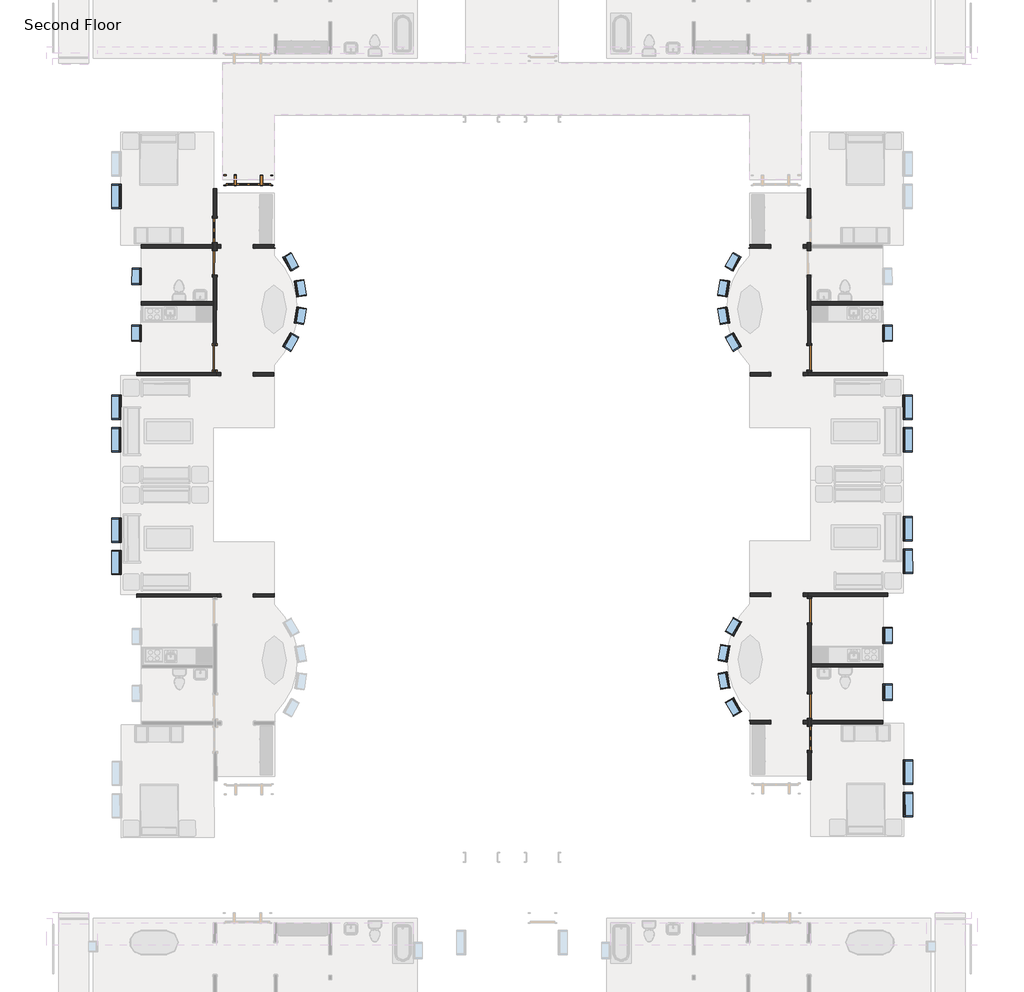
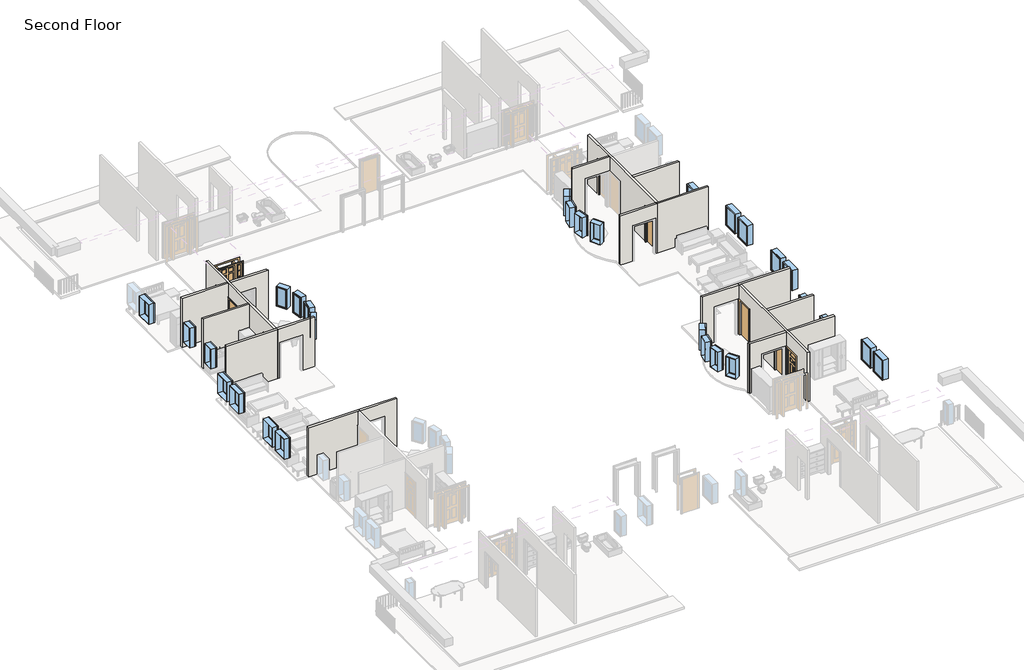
# One storey, part 2 of 6: 28 windows, 19 walls, 8 doors.
"""IFC4 building model written with IfcOpenShell, lengths in millimetres."""

from ifc_helpers import new_model, si_unit, frame, origin, place, context, project, spatial, polyline, circle_curve, outline, extrude, faceted_brep, transform, mapped, element, save
from ifc_brep_helpers import plane_surface, cylinder_surface, advanced_brep
from components import door_829da954, door_a1797ceb, door_a3eb833a, door_16372e1c, door_dba5aa2e, window_60baf983, window_ed80354a, window_15c49d37, window_0e2fc6ce

model = new_model("IFC4")

# Units and contexts
model_context = context("Model", 3, world=origin())
ifc_project = project(units=[si_unit("LENGTHUNIT", "METRE", prefix="MILLI")], contexts=[model_context])

# Site, building, storey
site = spatial("IfcSite", under=ifc_project)
building = spatial("IfcBuilding", under=site)
storey = spatial("IfcBuildingStorey", under=building, Name="Second Floor", Elevation=3048.0)

# Doors
placement = place(None, origin())
door_shape = door_829da954(model_context)
element("IfcDoor", 1, ObjectType="Single-Decorative 2 : 36\" x 84\"", at=placement, inside=storey, context=model_context, shape_type="MappedRepresentation", body=[
    mapped(door_shape, transform((-26098.4432559, -2102.1231556, 3048.0), x_axis=(-0.0007588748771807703, -0.9999997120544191, 0.0), y_axis=(0.9999997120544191, -0.0007588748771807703, 0.0), z_axis=(0.0, 0.0, 1.0))),
])
element("IfcDoor", 2, ObjectType="Single-Decorative 2 : 36\" x 84\"", at=placement, inside=storey, context=model_context, shape_type="MappedRepresentation", body=[
    mapped(door_shape, transform((-3757.4044126, -21203.0849432, 3048.0), x_axis=(-0.0007588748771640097, 0.999999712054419, 0.0), y_axis=(-0.999999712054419, -0.0007588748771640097, 0.0), z_axis=(0.0, 0.0, 1.0))),
])
door_2_shape = door_a1797ceb(model_context)
element("IfcDoor", 3, ObjectType="Single-Flush : 36\" x 84\"", at=placement, inside=storey, context=model_context, shape_type="MappedRepresentation", body=[
    mapped(door_2_shape, transform((-26099.3684761, -3321.3228045, 3048.0), x_axis=(0.0007588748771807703, 0.9999997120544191, 0.0), y_axis=(-0.9999997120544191, 0.0007588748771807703, 0.0), z_axis=(0.0, 0.0, 1.0))),
])
element("IfcDoor", 4, ObjectType="Single-Flush : 36\" x 84\"", at=placement, inside=storey, context=model_context, shape_type="MappedRepresentation", body=[
    mapped(door_2_shape, transform((-3758.3296328, -19983.8852943, 3048.0), x_axis=(0.0007588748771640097, -0.999999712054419, 0.0), y_axis=(0.999999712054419, 0.0007588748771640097, 0.0), z_axis=(0.0, 0.0, 1.0))),
])
door_3_shape = door_a3eb833a(model_context)
element("IfcDoor", 5, ObjectType="Single-Flush : 36\" x 84\"", at=placement, inside=storey, context=model_context, shape_type="MappedRepresentation", body=[
    mapped(door_3_shape, transform((-26102.0839012, -6899.5467742, 3048.0), x_axis=(-0.0007588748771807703, -0.9999997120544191, 0.0), y_axis=(0.9999997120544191, -0.0007588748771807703, 0.0), z_axis=(0.0, 0.0, 1.0))),
])
element("IfcDoor", 6, ObjectType="Single-Flush : 36\" x 84\"", at=placement, inside=storey, context=model_context, shape_type="MappedRepresentation", body=[
    mapped(door_3_shape, transform((-3761.0450579, -16405.6613246, 3048.0), x_axis=(-0.0007588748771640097, 0.999999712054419, 0.0), y_axis=(-0.999999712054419, -0.0007588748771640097, 0.0), z_axis=(0.0, 0.0, 1.0))),
])
door_4_shape = door_16372e1c(model_context)
element("IfcDoor", 7, ObjectType="Single-Flush : 36\" x 84\"", at=placement, inside=storey, context=model_context, shape_type="MappedRepresentation", body=[
    mapped(door_4_shape, transform((-3768.2590115, -6899.5467742, 3048.0), x_axis=(0.0007588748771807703, -0.9999997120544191, 0.0), y_axis=(0.9999997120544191, 0.0007588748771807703, 0.0), z_axis=(0.0, 0.0, 1.0))),
])
door_5_shape = door_dba5aa2e(model_context)
element("IfcDoor", 8, ObjectType="Single-Raised Panel with Sidelights : 36\" x 84\"", at=placement, inside=storey, context=model_context, shape_type="MappedRepresentation", body=[
    mapped(door_5_shape, transform((-24841.3047997, -223.5602693, 3048.0), x_axis=(0.9999997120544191, -0.0007588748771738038, 0.0), y_axis=(0.0007588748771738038, 0.9999997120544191, 0.0), z_axis=(0.0, 0.0, 1.0))),
])

# Walls
element("IfcWall", 9, ObjectType="Interior - 5\" Partition (2-hr)", at=placement, inside=storey, context=model_context, shape_type="Brep", body=[
    faceted_brep([(-832.5579351, -7443.419101, 3048.0), (-3704.3446082, -7445.5984284, 3048.0), (-3831.3445716, -7445.6948055, 3048.0), (-3831.3445716, -7445.6948055, 6096.0), (-3704.3446082, -7445.5984284, 6096.0), (-832.5579351, -7443.419101, 6096.0), (-832.461558, -7570.4190644, 3048.0), (-832.461558, -7570.4190644, 6096.0), (-3831.2481945, -7572.6947689, 6096.0), (-3831.2481945, -7572.6947689, 3048.0)], [[[0, 1, 2, 3, 4, 5]], [[6, 7, 8, 9]], [[2, 1, 0, 6, 9]], [[5, 4, 3, 8, 7]], [[0, 5, 7, 6]], [[3, 2, 9, 8]]]),
])
element("IfcWall", 10, ObjectType="Interior - 5\" Partition (2-hr)", at=placement, inside=storey, context=model_context, shape_type="Brep", body=[
    faceted_brep([(-3836.5862816, -538.4842944, 3048.0), (-3836.5862816, -538.4842944, 6096.0), (-3709.5863182, -538.3879173, 6096.0), (-3709.5863182, -538.3879173, 3048.0), (-3831.3445716, -7445.6948055, 3048.0), (-3831.4120356, -7356.7948311, 3048.0), (-3704.4120721, -7356.698454, 3048.0), (-3704.3446082, -7445.5984284, 3048.0), (-3834.8213758, -2864.1711247, 3048.0), (-3834.8888398, -2775.2711503, 3048.0), (-3834.9852169, -2648.2711869, 3048.0), (-3835.0526809, -2559.3712125, 3048.0), (-3708.0527175, -2559.2748354, 3048.0), (-3707.9852535, -2648.1748098, 3048.0), (-3707.8888764, -2775.1747732, 3048.0), (-3707.8214124, -2864.0747476, 3048.0), (-3707.1274972, -3778.4744843, 3048.0), (-3706.366118, -4781.7741954, 3048.0), (-3706.2697409, -4908.7741589, 3048.0), (-3705.1059873, -6442.2987173, 3048.0), (-3832.1059508, -6442.3950944, 3048.0), (-3834.1274606, -3778.5708614, 3048.0), (-3835.7465961, -1644.9714758, 3048.0), (-3708.7466326, -1644.8750987, 3048.0), (-3834.9852169, -2648.2711869, 6096.0), (-3834.8888398, -2775.2711503, 6096.0), (-3831.3445716, -7445.6948055, 6096.0), (-3704.3446082, -7445.5984284, 6096.0), (-3706.2697409, -4908.7741589, 6096.0), (-3706.366118, -4781.7741954, 6096.0), (-3707.8888764, -2775.1747732, 6096.0), (-3707.9852535, -2648.1748098, 6096.0), (-3835.0526809, -2559.3712125, 5181.6), (-3834.8213758, -2864.1711247, 5181.6), (-3834.1274606, -3778.5708614, 5181.6), (-3832.1059508, -6442.3950944, 5181.6), (-3831.4120356, -7356.7948311, 5181.6), (-3835.7465961, -1644.9714758, 5181.6), (-3708.0527175, -2559.2748354, 5181.6), (-3708.7466326, -1644.8750987, 5181.6), (-3704.4120721, -7356.698454, 5181.6), (-3705.1059873, -6442.2987173, 5181.6), (-3707.1274972, -3778.4744843, 5181.6), (-3707.8214124, -2864.0747476, 5181.6)], [[[0, 1, 2, 3]], [[4, 5, 6, 7]], [[8, 9, 10, 11, 12, 13, 14, 15]], [[16, 17, 18, 19, 20, 21]], [[22, 0, 3, 23]], [[1, 24, 25, 26, 27, 28, 29, 30, 31, 2]], [[32, 11, 10, 9, 8, 33, 34, 21, 20, 35, 36, 5, 4, 26, 25, 24, 1, 0, 22, 37]], [[15, 14, 13, 12, 38, 39, 23, 3, 2, 31, 30, 29, 28, 27, 7, 6, 40, 41, 19, 18, 17, 16, 42, 43]], [[26, 4, 7, 27]], [[40, 6, 5, 36]], [[41, 40, 36, 35]], [[19, 41, 35, 20]], [[33, 8, 15, 43]], [[34, 33, 43, 42]], [[21, 34, 42, 16]], [[38, 12, 11, 32]], [[39, 38, 32, 37]], [[23, 39, 37, 22]]]),
])
element("IfcWall", 11, ObjectType="Interior - 5\" Partition (2-hr)", at=placement, inside=storey, context=model_context, shape_type="SweptSolid", body=[
    extrude(outline(polyline([(-1010.6955171, -4906.7285547), (-3706.2697409, -4908.7741589), (-3706.366118, -4781.7741954), (-1010.7918942, -4779.7285913), (-1010.6955171, -4906.7285547)])), frame((0.0, 0.0, 3048.0), z_axis=(0.0, 0.0, 1.0), x_axis=(1.0, 0.0, 0.0)), (0.0, 0.0, 1.0), 3048.0),
])
element("IfcWall", 12, ObjectType="Interior - 5\" Partition (2-hr)", at=placement, inside=storey, context=model_context, shape_type="AdvancedBrep", body=[
    advanced_brep(
    [(-5993.9845952, -2649.9095978, 3048.0), (-5219.2848183, -2649.3216974, 3048.0), (-5219.1884412, -2776.3216608, 3048.0), (-6035.2682302, -2776.9409635, 3048.0), (-5993.9193325, -2735.9088692, 3048.0), (-4000.0851694, -2648.3964771, 3048.0), (-3834.9852169, -2648.2711869, 3048.0), (-3834.8888398, -2775.2711503, 3048.0), (-3999.9887923, -2775.3964406, 3048.0), (-3834.9852169, -2648.2711869, 6096.0), (-5993.9845952, -2649.9095978, 6096.0), (-5993.9193325, -2735.9088692, 6096.0), (-6035.2682302, -2776.9409635, 6096.0), (-3834.8888398, -2775.2711503, 6096.0), (-5219.2848183, -2649.3216974, 5181.6), (-4000.0851694, -2648.3964771, 5181.6), (-5219.1884412, -2776.3216608, 5181.6), (-3999.9887923, -2775.3964406, 5181.6)],
    [
        (0, 1),
        (1, 2),
        (2, 3),
        (3, 4, circle_curve(frame((-3991.8614496, -4794.7744983, 3048.0), z_axis=(0.0, 0.0, -1.0), x_axis=(-0.716928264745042, -0.697146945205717, 0.0)), 2871.7875)),
        (4, 0),
        (5, 6),
        (6, 7),
        (7, 8),
        (8, 5),
        (9, 10),
        (10, 11),
        (11, 12, circle_curve(frame((-3991.8614496, -4794.7744983, 6096.0), z_axis=(0.0, 0.0, 1.0), x_axis=(-0.716928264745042, -0.697146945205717, 0.0)), 2871.7875)),
        (12, 13),
        (13, 9),
        (14, 1),
        (0, 10),
        (9, 6),
        (5, 15),
        (15, 14),
        (2, 16),
        (16, 17),
        (17, 8),
        (7, 13),
        (12, 3),
        (4, 11),
        (17, 15),
        (14, 16),
    ],
    [
        plane_surface(frame((-3771.4852352, -2648.2229983, 3048.0), z_axis=(0.0, 0.0, -1.0000000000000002), x_axis=(0.0007588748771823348, -0.9999997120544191, 0.0))),
        plane_surface(frame((-6218.7760824, -2650.0801864, 6096.0), z_axis=(0.0, 0.0, 1.0000000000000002), x_axis=(0.000758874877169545, -0.9999997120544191, 0.0))),
        plane_surface(frame((-3771.4852352, -2648.2229983, 3048.0), z_axis=(-0.0007588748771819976, 0.9999997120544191, 0.0), x_axis=(-0.9999997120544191, -0.0007588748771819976, 0.0))),
        plane_surface(frame((-3771.3888581, -2775.2229618, 3048.0), z_axis=(0.0007588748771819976, -0.9999997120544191, 0.0), x_axis=(0.9999997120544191, 0.0007588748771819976, 0.0))),
        plane_surface(frame((-3836.4525584, -714.6967437, 3048.0), z_axis=(0.9999997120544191, 0.0007588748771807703, 0.0), x_axis=(0.0007588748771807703, -0.9999997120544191, 0.0))),
        plane_surface(frame((-5994.8723335, -1480.1014046, 2895.6), z_axis=(-0.999999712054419, -0.0007588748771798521, 0.0), x_axis=(0.0007588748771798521, -0.999999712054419, 0.0))),
        cylinder_surface(frame((-3991.8614496, -4794.7744983, 2895.6), z_axis=(0.0, 0.0, 1.0), x_axis=(-0.716928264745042, -0.697146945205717, 0.0)), 2871.7875),
        plane_surface(frame((-3999.9887923, -2775.3964406, 5181.6), z_axis=(-0.9999997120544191, -0.0007588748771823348, 0.0), x_axis=(-0.0007588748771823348, 0.9999997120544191, 0.0))),
        plane_surface(frame((-5219.1884412, -2776.3216608, 3048.0), z_axis=(0.9999997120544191, 0.0007588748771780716, 0.0), x_axis=(-0.0007588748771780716, 0.9999997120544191, 0.0))),
        plane_surface(frame((-5219.1884412, -2776.3216608, 5181.6), z_axis=(0.0, 0.0, -1.0000000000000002), x_axis=(-0.0007588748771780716, 0.9999997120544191, 0.0))),
    ],
    [
        (0, [[1, 2, 3, 4, 5]]),
        (0, [[6, 7, 8, 9]]),
        (1, [[10, 11, 12, 13, 14]]),
        (2, [[15, -1, 16, -10, 17, -6, 18, 19]]),
        (3, [[-3, 20, 21, 22, -8, 23, -13, 24]]),
        (4, [[-17, -14, -23, -7]]),
        (5, [[-16, -5, 25, -11]]),
        (6, [[-4, -24, -12, -25]]),
        (7, [[-22, 26, -18, -9]]),
        (8, [[-20, -2, -15, 27]]),
        (9, [[-21, -27, -19, -26]]),
    ],
),
])
element("IfcWall", 13, ObjectType="Interior - 5\" Partition (2-hr)", at=placement, inside=storey, context=model_context, shape_type="SweptSolid", body=[
    extrude(outline(polyline([(-228.6, -2133.6), (-228.6, 0.0), (-63.5, 0.0), (-63.5, -3048.0), (-2222.5, -3048.0), (-2222.5, 0.0), (-1447.8, 0.0), (-1447.8, -2133.6), (-228.6, -2133.6)])), frame((-3767.7482128, -7572.6465804, 3048.0), z_axis=(-0.0007588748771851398, 0.9999997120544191, 0.0), x_axis=(0.9999997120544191, 0.0007588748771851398, 0.0)), (0.0, 0.0, 1.0), 127.0),
])
element("IfcWall", 14, ObjectType="Interior - 5\" Partition (2-hr)", at=placement, inside=storey, context=model_context, shape_type="Brep", body=[
    faceted_brep([(-29037.8813546, -7570.4190644, 3048.0), (-26039.0947181, -7572.6947689, 3048.0), (-26039.0947181, -7572.6947689, 6096.0), (-29037.8813546, -7570.4190644, 6096.0), (-29037.7849775, -7443.419101, 3048.0), (-29037.7849775, -7443.419101, 6096.0), (-26165.9983045, -7445.5984284, 6096.0), (-26038.998341, -7445.6948055, 6096.0), (-26038.998341, -7445.6948055, 3048.0), (-26165.9983045, -7445.5984284, 3048.0)], [[[0, 1, 2, 3]], [[4, 5, 6, 7, 8, 9]], [[1, 0, 4, 9, 8]], [[3, 2, 7, 6, 5]], [[0, 3, 5, 4]], [[2, 1, 8, 7]]]),
])
element("IfcWall", 15, ObjectType="Interior - 5\" Partition (2-hr)", at=placement, inside=storey, context=model_context, shape_type="Brep", body=[
    faceted_brep([(-26160.7565944, -538.3879173, 3048.0), (-26160.7565944, -538.3879173, 6096.0), (-26033.756631, -538.4842944, 6096.0), (-26033.756631, -538.4842944, 3048.0), (-26165.9983045, -7445.5984284, 3048.0), (-26165.9308405, -7356.698454, 3048.0), (-26038.930877, -7356.7948311, 3048.0), (-26038.998341, -7445.6948055, 3048.0), (-26162.5215002, -2864.0747476, 3048.0), (-26162.4540363, -2775.1747732, 3048.0), (-26162.3576591, -2648.1748098, 3048.0), (-26162.2901952, -2559.2748354, 3048.0), (-26035.2902317, -2559.3712125, 3048.0), (-26035.3576957, -2648.2711869, 3048.0), (-26035.4540728, -2775.2711503, 3048.0), (-26035.5215368, -2864.1711247, 3048.0), (-26036.215452, -3778.5708614, 3048.0), (-26038.2369619, -6442.3950944, 3048.0), (-26165.2369253, -6442.2987173, 3048.0), (-26164.0731717, -4908.7741589, 3048.0), (-26163.9767946, -4781.7741954, 3048.0), (-26163.2154154, -3778.4744843, 3048.0), (-26161.59628, -1644.8750987, 3048.0), (-26034.5963165, -1644.9714758, 3048.0), (-26162.3576591, -2648.1748098, 6096.0), (-26162.4540363, -2775.1747732, 6096.0), (-26163.9767946, -4781.7741954, 6096.0), (-26164.0731717, -4908.7741589, 6096.0), (-26165.9983045, -7445.5984284, 6096.0), (-26038.998341, -7445.6948055, 6096.0), (-26035.4540728, -2775.2711503, 6096.0), (-26035.3576957, -2648.2711869, 6096.0), (-26162.2901952, -2559.2748354, 5181.6), (-26162.5215002, -2864.0747476, 5181.6), (-26163.2154154, -3778.4744843, 5181.6), (-26165.2369253, -6442.2987173, 5181.6), (-26165.9308405, -7356.698454, 5181.6), (-26161.59628, -1644.8750987, 5181.6), (-26035.2902317, -2559.3712125, 5181.6), (-26034.5963165, -1644.9714758, 5181.6), (-26038.930877, -7356.7948311, 5181.6), (-26038.2369619, -6442.3950944, 5181.6), (-26036.215452, -3778.5708614, 5181.6), (-26035.5215368, -2864.1711247, 5181.6)], [[[0, 1, 2, 3]], [[4, 5, 6, 7]], [[8, 9, 10, 11, 12, 13, 14, 15]], [[16, 17, 18, 19, 20, 21]], [[22, 0, 3, 23]], [[1, 24, 25, 26, 27, 28, 29, 30, 31, 2]], [[32, 11, 10, 9, 8, 33, 34, 21, 20, 19, 18, 35, 36, 5, 4, 28, 27, 26, 25, 24, 1, 0, 22, 37]], [[15, 14, 13, 12, 38, 39, 23, 3, 2, 31, 30, 29, 7, 6, 40, 41, 17, 16, 42, 43]], [[28, 4, 7, 29]], [[40, 6, 5, 36]], [[41, 40, 36, 35]], [[17, 41, 35, 18]], [[33, 8, 15, 43]], [[34, 33, 43, 42]], [[21, 34, 42, 16]], [[38, 12, 11, 32]], [[39, 38, 32, 37]], [[23, 39, 37, 22]]]),
])
element("IfcWall", 16, ObjectType="Interior - 5\" Partition (2-hr)", at=placement, inside=storey, context=model_context, shape_type="SweptSolid", body=[
    extrude(outline(polyline([(-26162.4540363, -2775.1747732), (-28858.0282601, -2773.1291691), (-28857.931883, -2646.1292056), (-26162.3576591, -2648.1748098), (-26162.4540363, -2775.1747732)])), frame((0.0, 0.0, 3048.0), z_axis=(0.0, 0.0, 1.0), x_axis=(1.0, 0.0, 0.0)), (0.0, 0.0, 1.0), 3048.0),
])
element("IfcWall", 17, ObjectType="Interior - 5\" Partition (2-hr)", at=placement, inside=storey, context=model_context, shape_type="SweptSolid", body=[
    extrude(outline(polyline([(-28859.5510184, -4779.7285913), (-26163.9767946, -4781.7741954), (-26164.0731717, -4908.7741589), (-28859.6473955, -4906.7285547), (-28859.5510184, -4779.7285913)])), frame((0.0, 0.0, 3048.0), z_axis=(0.0, 0.0, 1.0), x_axis=(1.0, 0.0, 0.0)), (0.0, 0.0, 1.0), 3048.0),
])
element("IfcWall", 18, ObjectType="Interior - 5\" Partition (2-hr)", at=placement, inside=storey, context=model_context, shape_type="AdvancedBrep", body=[
    advanced_brep(
    [(-23835.0746824, -2776.9409635, 3048.0), (-24651.1544714, -2776.3216608, 3048.0), (-24651.0580943, -2649.3216974, 3048.0), (-23876.3583174, -2649.9095978, 3048.0), (-23876.4235801, -2735.9088692, 3048.0), (-25870.3541204, -2775.3964406, 3048.0), (-26035.4540728, -2775.2711503, 3048.0), (-26035.3576957, -2648.2711869, 3048.0), (-25870.2577433, -2648.3964771, 3048.0), (-26035.4540728, -2775.2711503, 6096.0), (-23835.0746824, -2776.9409635, 6096.0), (-23876.4235801, -2735.9088692, 6096.0), (-23876.3583174, -2649.9095978, 6096.0), (-26035.3576957, -2648.2711869, 6096.0), (-24651.1544714, -2776.3216608, 5181.6), (-25870.3541204, -2775.3964406, 5181.6), (-24651.0580943, -2649.3216974, 5181.6), (-25870.2577433, -2648.3964771, 5181.6)],
    [
        (0, 1),
        (1, 2),
        (2, 3),
        (3, 4),
        (4, 0, circle_curve(frame((-25878.481463, -4794.7744983, 3048.0), z_axis=(0.0, 0.0, -1.0), x_axis=(0.7005417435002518, 0.7136114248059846, 0.0)), 2871.7875)),
        (5, 6),
        (6, 7),
        (7, 8),
        (8, 5),
        (9, 10),
        (10, 11, circle_curve(frame((-25878.481463, -4794.7744983, 6096.0), z_axis=(0.0, 0.0, 1.0), x_axis=(0.7005417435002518, 0.7136114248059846, 0.0)), 2871.7875)),
        (11, 12),
        (12, 13),
        (13, 9),
        (14, 1),
        (0, 10),
        (9, 6),
        (5, 15),
        (15, 14),
        (2, 16),
        (16, 17),
        (17, 8),
        (7, 13),
        (12, 3),
        (4, 11),
        (17, 15),
        (14, 16),
    ],
    [
        plane_surface(frame((-26098.9540545, -2775.2229618, 3048.0), z_axis=(0.0, 0.0, -1.0000000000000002), x_axis=(0.000758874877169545, 0.9999997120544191, 0.0))),
        plane_surface(frame((-23651.6632074, -2777.0801499, 6096.0), z_axis=(0.0, 0.0, 1.0000000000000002), x_axis=(0.000758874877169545, 0.9999997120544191, 0.0))),
        plane_surface(frame((-26098.9540545, -2775.2229618, 3048.0), z_axis=(-0.0007588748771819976, -0.9999997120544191, 0.0), x_axis=(0.9999997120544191, -0.0007588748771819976, 0.0))),
        plane_surface(frame((-26098.8576774, -2648.2229983, 3048.0), z_axis=(0.0007588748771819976, 0.9999997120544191, 0.0), x_axis=(-0.9999997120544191, 0.0007588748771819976, 0.0))),
        plane_surface(frame((-26033.8903542, -714.6967437, 3048.0), z_axis=(-0.9999997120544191, 0.0007588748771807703, 0.0), x_axis=(0.0007588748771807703, 0.9999997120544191, 0.0))),
        cylinder_surface(frame((-25878.481463, -4794.7744983, 2895.6), z_axis=(0.0, 0.0, 1.0), x_axis=(0.7005417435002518, 0.7136114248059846, 0.0)), 2871.7875),
        plane_surface(frame((-23875.4705791, -1480.1014046, 2895.6), z_axis=(0.999999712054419, -0.0007588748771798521, 0.0), x_axis=(0.0007588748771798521, 0.999999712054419, 0.0))),
        plane_surface(frame((-25870.2577433, -2648.3964771, 5181.6), z_axis=(0.9999997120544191, -0.000758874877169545, 0.0), x_axis=(-0.000758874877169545, -0.9999997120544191, 0.0))),
        plane_surface(frame((-24651.0580943, -2649.3216974, 3048.0), z_axis=(-0.9999997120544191, 0.000758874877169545, 0.0), x_axis=(-0.000758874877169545, -0.9999997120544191, 0.0))),
        plane_surface(frame((-24651.0580943, -2649.3216974, 5181.6), z_axis=(0.0, 0.0, -1.0000000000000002), x_axis=(-0.000758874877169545, -0.9999997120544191, 0.0))),
    ],
    [
        (0, [[1, 2, 3, 4, 5]]),
        (0, [[6, 7, 8, 9]]),
        (1, [[10, 11, 12, 13, 14]]),
        (2, [[15, -1, 16, -10, 17, -6, 18, 19]]),
        (3, [[-3, 20, 21, 22, -8, 23, -13, 24]]),
        (4, [[-17, -14, -23, -7]]),
        (5, [[-16, -5, 25, -11]]),
        (6, [[-4, -24, -12, -25]]),
        (7, [[-22, 26, -18, -9]]),
        (8, [[-20, -2, -15, 27]]),
        (9, [[-21, -27, -19, -26]]),
    ],
),
])
element("IfcWall", 19, ObjectType="Interior - 5\" Partition (2-hr)", at=placement, inside=storey, context=model_context, shape_type="SweptSolid", body=[
    extrude(outline(polyline([(63.5, 0.0), (228.5999999, 0.0), (228.5999999, -2133.6), (1447.8, -2133.6), (1447.8, 0.0), (2222.5, 0.0), (2222.5, -3048.0), (63.5, -3048.0), (63.5, 0.0)])), frame((-26102.5946998, -7572.6465804, 3048.0), z_axis=(0.0007588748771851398, 0.9999997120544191, 0.0), x_axis=(0.9999997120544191, -0.0007588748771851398, 0.0)), (0.0, 0.0, 1.0), 127.0),
])
element("IfcWall", 20, ObjectType="Interior - 5\" Partition (2-hr)", at=placement, inside=storey, context=model_context, shape_type="Brep", body=[
    faceted_brep([(-826.2692018, -15730.3340025, 3048.0), (-3825.0558383, -15732.609707, 3048.0), (-3825.0558383, -15732.609707, 6096.0), (-826.2692018, -15730.3340025, 6096.0), (-826.1728246, -15857.3339659, 3048.0), (-826.1728246, -15857.3339659, 6096.0), (-3697.9594977, -15859.5132933, 6096.0), (-3824.9594612, -15859.6096704, 6096.0), (-3824.9594612, -15859.6096704, 3048.0), (-3697.9594977, -15859.5132933, 3048.0)], [[[0, 1, 2, 3]], [[4, 5, 6, 7, 8, 9]], [[1, 0, 4, 9, 8]], [[3, 2, 7, 6, 5]], [[0, 3, 5, 4]], [[2, 1, 8, 7]]]),
])
element("IfcWall", 21, ObjectType="Interior - 5\" Partition (2-hr)", at=placement, inside=storey, context=model_context, shape_type="Brep", body=[
    faceted_brep([(-3692.7177877, -22766.7238044, 3048.0), (-3692.7177877, -22766.7238044, 6096.0), (-3819.7177511, -22766.8201815, 6096.0), (-3819.7177511, -22766.8201815, 3048.0), (-3697.9594977, -15859.5132933, 3048.0), (-3697.8920337, -15948.4132677, 3048.0), (-3824.8919972, -15948.5096448, 3048.0), (-3824.9594612, -15859.6096704, 3048.0), (-3694.4826935, -20441.0369741, 3048.0), (-3694.4152295, -20529.9369485, 3048.0), (-3694.3188524, -20656.9369119, 3048.0), (-3694.2513884, -20745.8368863, 3048.0), (-3821.2513519, -20745.9332634, 3048.0), (-3821.3188158, -20657.033289, 3048.0), (-3821.415193, -20530.0333256, 3048.0), (-3821.4826569, -20441.1333512, 3048.0), (-3822.1765721, -19526.7336145, 3048.0), (-3824.198082, -16862.9093815, 3048.0), (-3697.1981186, -16862.8130044, 3048.0), (-3696.034365, -18396.3375629, 3048.0), (-3695.9379879, -18523.3375263, 3048.0), (-3695.1766087, -19526.6372374, 3048.0), (-3693.5574733, -21660.236623, 3048.0), (-3820.5574367, -21660.3330001, 3048.0), (-3694.3188524, -20656.9369119, 6096.0), (-3694.4152295, -20529.9369485, 6096.0), (-3695.9379879, -18523.3375263, 6096.0), (-3696.034365, -18396.3375629, 6096.0), (-3697.9594977, -15859.5132933, 6096.0), (-3824.9594612, -15859.6096704, 6096.0), (-3821.415193, -20530.0333256, 6096.0), (-3821.3188158, -20657.033289, 6096.0), (-3694.2513884, -20745.8368863, 5181.6), (-3694.4826935, -20441.0369741, 5181.6), (-3695.1766087, -19526.6372374, 5181.6), (-3697.1981186, -16862.8130044, 5181.6), (-3697.8920337, -15948.4132677, 5181.6), (-3693.5574733, -21660.236623, 5181.6), (-3821.2513519, -20745.9332634, 5181.6), (-3820.5574367, -21660.3330001, 5181.6), (-3824.8919972, -15948.5096448, 5181.6), (-3824.198082, -16862.9093815, 5181.6), (-3822.1765721, -19526.7336145, 5181.6), (-3821.4826569, -20441.1333512, 5181.6)], [[[0, 1, 2, 3]], [[4, 5, 6, 7]], [[8, 9, 10, 11, 12, 13, 14, 15]], [[16, 17, 18, 19, 20, 21]], [[22, 0, 3, 23]], [[1, 24, 25, 26, 27, 28, 29, 30, 31, 2]], [[32, 11, 10, 9, 8, 33, 34, 21, 20, 19, 18, 35, 36, 5, 4, 28, 27, 26, 25, 24, 1, 0, 22, 37]], [[15, 14, 13, 12, 38, 39, 23, 3, 2, 31, 30, 29, 7, 6, 40, 41, 17, 16, 42, 43]], [[28, 4, 7, 29]], [[40, 6, 5, 36]], [[41, 40, 36, 35]], [[17, 41, 35, 18]], [[33, 8, 15, 43]], [[34, 33, 43, 42]], [[21, 34, 42, 16]], [[38, 12, 11, 32]], [[39, 38, 32, 37]], [[23, 39, 37, 22]]]),
])
element("IfcWall", 22, ObjectType="Interior - 5\" Partition (2-hr)", at=placement, inside=storey, context=model_context, shape_type="SweptSolid", body=[
    extrude(outline(polyline([(-3694.4152295, -20529.9369485), (-998.8410057, -20527.8913444), (-998.7446286, -20654.8913078), (-3694.3188524, -20656.9369119), (-3694.4152295, -20529.9369485)])), frame((0.0, 0.0, 3048.0), z_axis=(0.0, 0.0, 1.0), x_axis=(1.0, 0.0, 0.0)), (0.0, 0.0, 1.0), 3048.0),
])
element("IfcWall", 23, ObjectType="Interior - 5\" Partition (2-hr)", at=placement, inside=storey, context=model_context, shape_type="SweptSolid", body=[
    extrude(outline(polyline([(-1000.363764, -18521.2919221), (-3695.9379879, -18523.3375263), (-3696.034365, -18396.3375629), (-1000.4601411, -18394.2919587), (-1000.363764, -18521.2919221)])), frame((0.0, 0.0, 3048.0), z_axis=(0.0, 0.0, 1.0), x_axis=(1.0, 0.0, 0.0)), (0.0, 0.0, 1.0), 3048.0),
])
element("IfcWall", 24, ObjectType="Interior - 5\" Partition (2-hr)", at=placement, inside=storey, context=model_context, shape_type="AdvancedBrep", body=[
    advanced_brep(
    [(-6021.7945834, -20531.7031387, 3048.0), (-5205.7147944, -20531.0838361, 3048.0), (-5205.6184172, -20658.0837995, 3048.0), (-5980.3181942, -20658.6716999, 3048.0), (-5980.3834569, -20572.6724285, 3048.0), (-3986.5151454, -20530.1586159, 3048.0), (-3821.415193, -20530.0333256, 3048.0), (-3821.3188158, -20657.033289, 3048.0), (-3986.4187683, -20657.1585793, 3048.0), (-3821.415193, -20530.0333256, 6096.0), (-6021.7945834, -20531.7031387, 6096.0), (-5980.3834569, -20572.6724285, 6096.0), (-5980.3181942, -20658.6716999, 6096.0), (-3821.3188158, -20657.033289, 6096.0), (-5205.7147944, -20531.0838361, 5181.6), (-3986.5151454, -20530.1586159, 5181.6), (-5205.6184172, -20658.0837995, 5181.6), (-3986.4187683, -20657.1585793, 5181.6)],
    [
        (0, 1),
        (1, 2),
        (2, 3),
        (3, 4),
        (4, 0, circle_curve(frame((-3981.4527218, -18510.7705488, 3048.0), z_axis=(0.0, 0.0, -1.0), x_axis=(-0.6994578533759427, -0.714673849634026, 0.0)), 2871.7875)),
        (5, 6),
        (6, 7),
        (7, 8),
        (8, 5),
        (9, 10),
        (10, 11, circle_curve(frame((-3981.4527218, -18510.7705488, 6096.0), z_axis=(0.0, 0.0, 1.0), x_axis=(-0.6994578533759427, -0.714673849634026, 0.0)), 2871.7875)),
        (11, 12),
        (12, 13),
        (13, 9),
        (14, 1),
        (0, 10),
        (9, 6),
        (5, 15),
        (15, 14),
        (2, 16),
        (16, 17),
        (17, 8),
        (7, 13),
        (12, 3),
        (4, 11),
        (17, 15),
        (14, 16),
    ],
    [
        plane_surface(frame((-3757.9152112, -20529.9851371, 3048.0), z_axis=(0.0, 0.0, -1.0000000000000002), x_axis=(0.0007588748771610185, -0.9999997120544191, 0.0))),
        plane_surface(frame((-6205.2060584, -20531.8423251, 6096.0), z_axis=(0.0, 0.0, 1.0000000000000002), x_axis=(0.000758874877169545, -0.9999997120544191, 0.0))),
        plane_surface(frame((-3757.9152112, -20529.9851371, 3048.0), z_axis=(-0.0007588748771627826, 0.9999997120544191, 0.0), x_axis=(-0.9999997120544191, -0.0007588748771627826, 0.0))),
        plane_surface(frame((-3757.8188341, -20656.9851005, 3048.0), z_axis=(0.0007588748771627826, -0.9999997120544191, 0.0), x_axis=(0.9999997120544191, 0.0007588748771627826, 0.0))),
        plane_surface(frame((-3819.8514744, -22590.6077323, 3048.0), z_axis=(0.999999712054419, 0.0007588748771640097, 0.0), x_axis=(0.0007588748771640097, -0.999999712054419, 0.0))),
        cylinder_surface(frame((-3981.4527218, -18510.7705488, 2895.6), z_axis=(0.0, 0.0, 1.0), x_axis=(-0.6994578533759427, -0.714673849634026, 0.0)), 2871.7875),
        plane_surface(frame((-5979.4304559, -21828.4798931, 2895.6), z_axis=(-0.999999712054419, -0.0007588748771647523, 0.0), x_axis=(0.0007588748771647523, -0.999999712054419, 0.0))),
        plane_surface(frame((-3986.4187683, -20657.1585793, 5181.6), z_axis=(-0.9999997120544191, -0.0007588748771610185, 0.0), x_axis=(-0.0007588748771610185, 0.9999997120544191, 0.0))),
        plane_surface(frame((-5205.6184172, -20658.0837995, 3048.0), z_axis=(0.9999997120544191, 0.0007588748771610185, 0.0), x_axis=(-0.0007588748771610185, 0.9999997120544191, 0.0))),
        plane_surface(frame((-5205.6184172, -20658.0837995, 5181.6), z_axis=(0.0, 0.0, -1.0000000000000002), x_axis=(-0.0007588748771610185, 0.9999997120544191, 0.0))),
    ],
    [
        (0, [[1, 2, 3, 4, 5]]),
        (0, [[6, 7, 8, 9]]),
        (1, [[10, 11, 12, 13, 14]]),
        (2, [[15, -1, 16, -10, 17, -6, 18, 19]]),
        (3, [[-3, 20, 21, 22, -8, 23, -13, 24]]),
        (4, [[-17, -14, -23, -7]]),
        (5, [[-16, -5, 25, -11]]),
        (6, [[-4, -24, -12, -25]]),
        (7, [[-22, 26, -18, -9]]),
        (8, [[-20, -2, -15, 27]]),
        (9, [[-21, -27, -19, -26]]),
    ],
),
])
element("IfcWall", 25, ObjectType="Interior - 5\" Partition (2-hr)", at=placement, inside=storey, context=model_context, shape_type="SweptSolid", body=[
    extrude(outline(polyline([(-228.6, -2133.6), (-228.6, 0.0), (-63.5000001, 0.0), (-63.5000001, -3048.0), (-2222.5000001, -3048.0), (-2222.5000001, 0.0), (-1447.8000001, 0.0), (-1447.8000001, -2133.6), (-228.6, -2133.6)])), frame((-3761.4594794, -15859.5614819, 3048.0), z_axis=(-0.0007588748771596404, 0.9999997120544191, 0.0), x_axis=(0.9999997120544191, 0.0007588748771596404, 0.0)), (0.0, 0.0, 1.0), 127.0),
])
element("IfcWall", 26, ObjectType="Interior - 5\" Partition (2-hr)", at=placement, inside=storey, context=model_context, shape_type="Brep", body=[
    faceted_brep([(-29031.3673808, -15900.14243, 3048.0), (-26159.5873231, -15893.6044529, 3048.0), (-26032.5876522, -15893.3153218, 3048.0), (-26032.5876522, -15893.3153218, 6096.0), (-26159.5873231, -15893.6044529, 6096.0), (-29031.3673808, -15900.14243, 6096.0), (-29031.6565119, -15773.1427592, 3048.0), (-29031.6565119, -15773.1427592, 6096.0), (-26032.8767833, -15766.3156509, 6096.0), (-26032.8767833, -15766.3156509, 3048.0)], [[[0, 1, 2, 3, 4, 5]], [[6, 7, 8, 9]], [[2, 1, 0, 6, 9]], [[5, 4, 3, 8, 7]], [[0, 5, 7, 6]], [[3, 2, 9, 8]]]),
])
element("IfcWall", 27, ObjectType="Interior - 5\" Partition (2-hr)", at=placement, inside=storey, context=model_context, shape_type="SweptSolid", body=[
    extrude(outline(polyline([(63.5, 0.0), (228.5999999, 0.0), (228.5999999, -2133.6), (1447.8, -2133.6), (1447.8, 0.0), (2222.4999999, 0.0), (2222.4999999, -3048.0), (63.5, -3048.0), (63.5, 0.0)])), frame((-26096.0874876, -15893.4598873, 3048.0), z_axis=(-0.002276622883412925, 0.9999974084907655, 0.0), x_axis=(0.9999974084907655, 0.002276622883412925, 0.0)), (0.0, 0.0, 1.0), 127.0),
])

# Windows
window_shape = window_60baf983(model_context)
element("IfcWindow", 28, ObjectType="Fixed : 24\" x 48\"", at=placement, inside=storey, context=model_context, shape_type="MappedRepresentation", body=[
    mapped(window_shape, transform((-6645.6605112, -3324.6411967, 3048.0), x_axis=(-0.4955320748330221, -0.8685896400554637, 0.0), y_axis=(0.8685896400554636, -0.49553207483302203, 0.0), z_axis=(0.0, 0.0, 0.9999999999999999))),
])
element("IfcWindow", 29, ObjectType="Fixed : 24\" x 48\"", at=placement, inside=storey, context=model_context, shape_type="MappedRepresentation", body=[
    mapped(window_shape, transform((-6988.2338749, -4319.7022169, 3048.0), x_axis=(-0.16898438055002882, -0.9856187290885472, 0.0), y_axis=(0.9856187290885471, -0.1689843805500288, 0.0), z_axis=(0.0, 0.0, 0.9999999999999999))),
])
element("IfcWindow", 30, ObjectType="Fixed : 24\" x 48\"", at=placement, inside=storey, context=model_context, shape_type="MappedRepresentation", body=[
    mapped(window_shape, transform((-29035.0780489, -3876.391272, 3048.0), x_axis=(-0.0007588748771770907, -0.9999997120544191, 0.0), y_axis=(0.9999997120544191, -0.0007588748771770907, 0.0), z_axis=(0.0, 0.0, 1.0))),
])
element("IfcWindow", 31, ObjectType="Fixed : 24\" x 48\"", at=placement, inside=storey, context=model_context, shape_type="MappedRepresentation", body=[
    mapped(window_shape, transform((-29036.6971844, -6009.9906576, 3048.0), x_axis=(-0.0007588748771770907, -0.9999997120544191, 0.0), y_axis=(0.9999997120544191, -0.0007588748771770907, 0.0), z_axis=(0.0, 0.0, 1.0))),
])
element("IfcWindow", 32, ObjectType="Fixed : 24\" x 48\"", at=placement, inside=storey, context=model_context, shape_type="MappedRepresentation", body=[
    mapped(window_shape, transform((-23228.4628132, -6268.0487642, 3048.0), x_axis=(0.4968498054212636, 0.8678365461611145, 0.0), y_axis=(-0.8678365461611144, 0.49684980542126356, 0.0), z_axis=(0.0, 0.0, 0.9999999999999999))),
])
element("IfcWindow", 33, ObjectType="Fixed : 24\" x 48\"", at=placement, inside=storey, context=model_context, shape_type="MappedRepresentation", body=[
    mapped(window_shape, transform((-22884.5889624, -5274.0902622, 3048.0), x_axis=(0.17048010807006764, 0.9853611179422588, 0.0), y_axis=(-0.9853611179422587, 0.1704801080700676, 0.0), z_axis=(0.0, 0.0, 0.9999999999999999))),
])
element("IfcWindow", 34, ObjectType="Fixed : 24\" x 48\"", at=placement, inside=storey, context=model_context, shape_type="MappedRepresentation", body=[
    mapped(window_shape, transform((-823.4658961, -19424.361795, 3048.0), x_axis=(-0.0007588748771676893, 0.999999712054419, 0.0), y_axis=(-0.999999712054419, -0.0007588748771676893, 0.0), z_axis=(0.0, 0.0, 1.0))),
])
element("IfcWindow", 35, ObjectType="Fixed : 24\" x 48\"", at=placement, inside=storey, context=model_context, shape_type="MappedRepresentation", body=[
    mapped(window_shape, transform((-825.0850315, -17290.7624094, 3048.0), x_axis=(-0.0007588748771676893, 0.999999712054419, 0.0), y_axis=(-0.999999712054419, -0.0007588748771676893, 0.0), z_axis=(0.0, 0.0, 1.0))),
])
element("IfcWindow", 36, ObjectType="Fixed : 24\" x 48\"", at=placement, inside=storey, context=model_context, shape_type="MappedRepresentation", body=[
    mapped(window_shape, transform((-6633.7043804, -17041.5200437, 3048.0), x_axis=(-0.4955320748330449, -0.8685896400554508, 0.0), y_axis=(0.8685896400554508, -0.4955320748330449, 0.0), z_axis=(0.0, 0.0, 1.0))),
])
element("IfcWindow", 37, ObjectType="Fixed : 24\" x 48\"", at=placement, inside=storey, context=model_context, shape_type="MappedRepresentation", body=[
    mapped(window_shape, transform((-6976.0692553, -18035.9993152, 3048.0), x_axis=(-0.16898438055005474, -0.9856187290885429, 0.0), y_axis=(0.9856187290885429, -0.16898438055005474, 0.0), z_axis=(0.0, 0.0, 1.0))),
])
window_2_shape = window_ed80354a(model_context)
element("IfcWindow", 38, ObjectType="Fixed : 24\" x 48\"", at=placement, inside=storey, context=model_context, shape_type="MappedRepresentation", body=[
    mapped(window_2_shape, transform((-833.6457282, -6009.9906576, 3048.0), x_axis=(0.0007588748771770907, -0.9999997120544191, 0.0), y_axis=(0.9999997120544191, 0.0007588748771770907, 0.0), z_axis=(0.0, 0.0, 1.0))),
])
element("IfcWindow", 39, ObjectType="Fixed : 24\" x 48\"", at=placement, inside=storey, context=model_context, shape_type="MappedRepresentation", body=[
    mapped(window_2_shape, transform((-6643.4261608, -6268.9339082, 3048.0), x_axis=(-0.4968498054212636, 0.8678365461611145, 0.0), y_axis=(-0.8678365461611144, -0.49684980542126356, 0.0), z_axis=(0.0, 0.0, 0.9999999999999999))),
])
element("IfcWindow", 40, ObjectType="Fixed : 24\" x 48\"", at=placement, inside=storey, context=model_context, shape_type="MappedRepresentation", body=[
    mapped(window_2_shape, transform((-6987.5093831, -5274.3939746, 3048.0), x_axis=(-0.17048010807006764, 0.9853611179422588, 0.0), y_axis=(-0.9853611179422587, -0.1704801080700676, 0.0), z_axis=(0.0, 0.0, 0.9999999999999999))),
])
element("IfcWindow", 41, ObjectType="Fixed : 24\" x 48\"", at=placement, inside=storey, context=model_context, shape_type="MappedRepresentation", body=[
    mapped(window_2_shape, transform((-23226.2298045, -3325.5239932, 3048.0), x_axis=(0.4955320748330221, -0.8685896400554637, 0.0), y_axis=(0.8685896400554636, 0.49553207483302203, 0.0), z_axis=(0.0, 0.0, 0.9999999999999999))),
])
element("IfcWindow", 42, ObjectType="Fixed : 24\" x 48\"", at=placement, inside=storey, context=model_context, shape_type="MappedRepresentation", body=[
    mapped(window_2_shape, transform((-22883.8649295, -4320.0032646, 3048.0), x_axis=(0.16898438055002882, -0.9856187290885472, 0.0), y_axis=(0.9856187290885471, 0.1689843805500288, 0.0), z_axis=(0.0, 0.0, 0.9999999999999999))),
])
element("IfcWindow", 43, ObjectType="Fixed : 24\" x 48\"", at=placement, inside=storey, context=model_context, shape_type="MappedRepresentation", body=[
    mapped(window_2_shape, transform((-6631.4713716, -19984.0448147, 3048.0), x_axis=(-0.4968498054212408, 0.8678365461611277, 0.0), y_axis=(-0.8678365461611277, -0.4968498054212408, 0.0), z_axis=(0.0, 0.0, 1.0))),
])
element("IfcWindow", 44, ObjectType="Fixed : 24\" x 48\"", at=placement, inside=storey, context=model_context, shape_type="MappedRepresentation", body=[
    mapped(window_2_shape, transform((-6975.3452224, -18990.0863128, 3048.0), x_axis=(-0.1704801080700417, 0.9853611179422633, 0.0), y_axis=(-0.9853611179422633, -0.1704801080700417, 0.0), z_axis=(0.0, 0.0, 1.0))),
])
window_3_shape = window_15c49d37(model_context)
element("IfcWindow", 45, ObjectType="Fixed : 36\" x 48\"", at=placement, inside=storey, context=model_context, shape_type="MappedRepresentation", body=[
    mapped(window_3_shape, transform((-29801.7340486, -10011.4987426, 3048.0), x_axis=(-0.0007588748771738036, -0.999999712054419, 0.0), y_axis=(0.999999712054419, -0.0007588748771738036, 0.0), z_axis=(0.0, 0.0, 1.0))),
])
element("IfcWindow", 46, ObjectType="Fixed : 36\" x 48\"", at=placement, inside=storey, context=model_context, shape_type="MappedRepresentation", body=[
    mapped(window_3_shape, transform((-29800.8088284, -8792.2990936, 3048.0), x_axis=(-0.0007588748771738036, -0.999999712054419, 0.0), y_axis=(0.999999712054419, -0.0007588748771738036, 0.0), z_axis=(0.0, 0.0, 1.0))),
])
element("IfcWindow", 47, ObjectType="Fixed : 36\" x 48\"", at=placement, inside=storey, context=model_context, shape_type="MappedRepresentation", body=[
    mapped(window_3_shape, transform((-29794.7948968, -867.5013755, 3048.0), x_axis=(-0.0007588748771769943, -0.999999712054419, 0.0), y_axis=(0.999999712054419, -0.0007588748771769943, 0.0), z_axis=(0.0, 0.0, 1.0))),
])
element("IfcWindow", 48, ObjectType="Fixed : 36\" x 48\"", at=placement, inside=storey, context=model_context, shape_type="MappedRepresentation", body=[
    mapped(window_3_shape, transform((-66.1223346, -13288.0977991, 3048.0), x_axis=(-0.0007588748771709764, 0.9999997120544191, 0.0), y_axis=(-0.9999997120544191, -0.0007588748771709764, 0.0), z_axis=(0.0, 0.0, 1.0))),
])
element("IfcWindow", 49, ObjectType="Fixed : 36\" x 48\"", at=placement, inside=storey, context=model_context, shape_type="MappedRepresentation", body=[
    mapped(window_3_shape, transform((-65.1971143, -14507.297448, 3048.0), x_axis=(-0.0007588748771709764, 0.9999997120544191, 0.0), y_axis=(-0.9999997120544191, -0.0007588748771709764, 0.0), z_axis=(0.0, 0.0, 1.0))),
])
element("IfcWindow", 50, ObjectType="Fixed : 36\" x 48\"", at=placement, inside=storey, context=model_context, shape_type="MappedRepresentation", body=[
    mapped(window_3_shape, transform((-58.2579624, -23651.294815, 3048.0), x_axis=(-0.0007588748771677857, 0.9999997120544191, 0.0), y_axis=(-0.9999997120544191, -0.0007588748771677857, 0.0), z_axis=(0.0, 0.0, 1.0))),
])
element("IfcWindow", 51, ObjectType="Fixed : 36\" x 48\"", at=placement, inside=storey, context=model_context, shape_type="MappedRepresentation", body=[
    mapped(window_3_shape, transform((-59.1831827, -22432.0951661, 3048.0), x_axis=(-0.0007588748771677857, 0.9999997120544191, 0.0), y_axis=(-0.9999997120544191, -0.0007588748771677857, 0.0), z_axis=(0.0, 0.0, 1.0))),
])
window_4_shape = window_0e2fc6ce(model_context)
element("IfcWindow", 52, ObjectType="Fixed : 36\" x 48\"", at=placement, inside=storey, context=model_context, shape_type="MappedRepresentation", body=[
    mapped(window_4_shape, transform((-68.608864, -10011.4987426, 3048.0), x_axis=(0.0007588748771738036, -0.999999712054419, 0.0), y_axis=(0.999999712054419, 0.0007588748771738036, 0.0), z_axis=(0.0, 0.0, 1.0))),
])
element("IfcWindow", 53, ObjectType="Fixed : 36\" x 48\"", at=placement, inside=storey, context=model_context, shape_type="MappedRepresentation", body=[
    mapped(window_4_shape, transform((-69.5340842, -8792.2990936, 3048.0), x_axis=(0.0007588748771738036, -0.999999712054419, 0.0), y_axis=(0.999999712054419, 0.0007588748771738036, 0.0), z_axis=(0.0, 0.0, 1.0))),
])
element("IfcWindow", 54, ObjectType="Fixed : 36\" x 48\"", at=placement, inside=storey, context=model_context, shape_type="MappedRepresentation", body=[
    mapped(window_4_shape, transform((-29799.2132731, -13333.2252295, 3048.0), x_axis=(-0.0022766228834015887, 0.9999974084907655, 0.0), y_axis=(-0.9999974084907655, -0.0022766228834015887, 0.0), z_axis=(0.0, 0.0, 1.0))),
])
element("IfcWindow", 55, ObjectType="Fixed : 36\" x 48\"", at=placement, inside=storey, context=model_context, shape_type="MappedRepresentation", body=[
    mapped(window_4_shape, transform((-29796.4376145, -14552.42207, 3048.0), x_axis=(-0.0022766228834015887, 0.9999974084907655, 0.0), y_axis=(-0.9999974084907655, -0.0022766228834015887, 0.0), z_axis=(0.0, 0.0, 1.0))),
])

save(model, "model.ifc")
